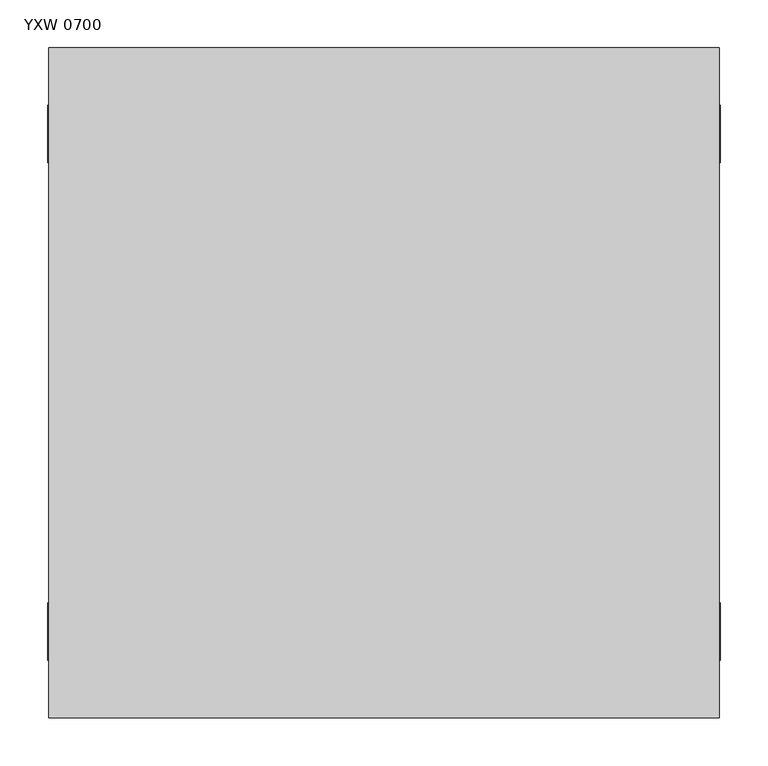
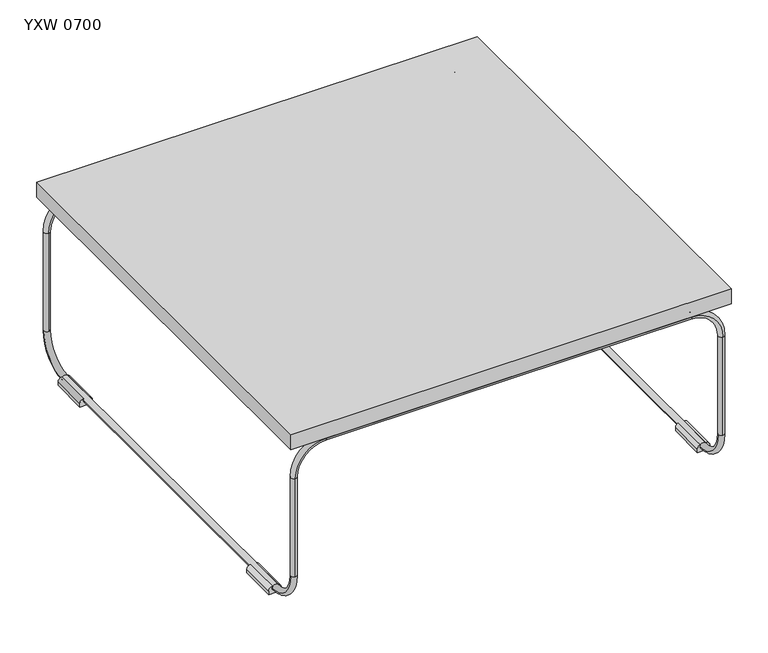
"""IFC4 building model written with IfcOpenShell, lengths in millimetres: furniture geometry, Mobiliário_Mobiliário de Escritório_LinhaYoung_Mesa Baixa YXW 0700_Marelli : YXW 0700."""

from ifc_helpers import new_model, si_unit, point, frame, frame_2d, origin, place, context, project, spatial, polyline, circle_curve, ellipse_curve, trimmed, segment, composite_curve, outline, extrude, source, transform, mapped, element, save
from ifc_brep_helpers import cylinder_surface, revolved_surface, advanced_brep


def yxw_0700_d7e07470(model_context):
    return source(origin(), model_context, "Body", "SolidModel", [
        extrude(outline(polyline([(700.0, 0.0), (0.0, 0.0), (0.0, 700.0), (700.0, 700.0), (700.0, 0.0)])), frame((0.0, 0.0, 280.0), z_axis=(0.0, 0.0, 1.0), x_axis=(1.0, 0.0, 0.0)), (0.0, 0.0, 1.0), 25.0),
        advanced_brep(
        [(15.0, 640.0, 9.0), (15.0, 690.0, 59.0), (10.0, 685.0, 59.0), (5.0, 690.0, 59.0), (5.0, 640.0, 9.0), (10.0, 695.0, 59.0), (5.0, 60.0, 9.0), (15.0, 60.0, 9.0), (695.0, 60.0, 9.0), (695.0, 640.0, 9.0), (685.0, 640.0, 9.0), (685.0, 60.0, 9.0), (695.0, 690.0, 59.0), (690.0, 685.0, 59.0), (685.0, 690.0, 59.0), (690.0, 695.0, 59.0), (5.0, 10.0, 59.0), (10.0, 15.0, 59.0), (15.0, 10.0, 59.0), (10.0, 5.0, 59.0), (685.0, 10.0, 59.0), (690.0, 15.0, 59.0), (695.0, 10.0, 59.0), (690.0, 5.0, 59.0), (640.0, 5.0, 275.0), (60.0, 5.0, 275.0), (60.0, 15.0, 275.0), (70.0, 15.0, 275.0), (75.0, 10.0, 270.0), (80.0, 15.0, 275.0), (620.0, 15.0, 275.0), (625.0, 10.0, 270.0), (630.0, 15.0, 275.0), (640.0, 15.0, 275.0), (625.0, 10.0, 280.0), (75.0, 10.0, 280.0), (640.0, 695.0, 275.0), (60.0, 695.0, 275.0), (60.0, 685.0, 275.0), (70.0, 685.0, 275.0), (75.0, 690.0, 280.0), (80.0, 685.0, 275.0), (620.0, 685.0, 275.0), (625.0, 690.0, 280.0), (630.0, 685.0, 275.0), (640.0, 685.0, 275.0), (625.0, 690.0, 270.0), (75.0, 690.0, 270.0), (10.0, 5.0, 225.0), (10.0, 15.0, 225.0), (690.0, 15.0, 225.0), (690.0, 5.0, 225.0), (10.0, 685.0, 225.0), (10.0, 695.0, 225.0), (690.0, 695.0, 225.0), (690.0, 685.0, 225.0)],
        [
            (0, 1, circle_curve(frame((15.0, 640.0, 59.0), z_axis=(1.0, 0.0, 0.0), x_axis=(0.0, 1.0, 0.0)), 50.0)),
            (1, 2, circle_curve(frame((10.0, 690.0, 59.0), z_axis=(0.0, 0.0, -1.0), x_axis=(1.0, 0.0, 0.0)), 5.0)),
            (2, 3, circle_curve(frame((10.0, 690.0, 59.0), z_axis=(0.0, 0.0, -1.0), x_axis=(1.0, 0.0, 0.0)), 5.0)),
            (3, 4, circle_curve(frame((5.0, 640.0, 59.0), z_axis=(-1.0, 0.0, 0.0), x_axis=(0.0, 1.0, 0.0)), 50.0)),
            (4, 0, circle_curve(frame((10.0, 640.0, 9.0), z_axis=(0.0, 1.0, 0.0), x_axis=(1.0, 0.0, 0.0)), 5.0)),
            (0, 4, circle_curve(frame((10.0, 640.0, 9.0), z_axis=(0.0, 1.0, 0.0), x_axis=(1.0, 0.0, 0.0)), 5.0)),
            (3, 5, circle_curve(frame((10.0, 690.0, 59.0), z_axis=(0.0, 0.0, -1.0), x_axis=(1.0, 0.0, 0.0)), 5.0)),
            (5, 1, circle_curve(frame((10.0, 690.0, 59.0), z_axis=(0.0, 0.0, -1.0), x_axis=(1.0, 0.0, 0.0)), 5.0)),
            (6, 4),
            (0, 7),
            (7, 6, circle_curve(frame((10.0, 60.0, 9.0), z_axis=(0.0, 1.0, 0.0), x_axis=(1.0, 0.0, 0.0)), 5.0)),
            (6, 7, circle_curve(frame((10.0, 60.0, 9.0), z_axis=(0.0, 1.0, 0.0), x_axis=(1.0, 0.0, 0.0)), 5.0)),
            (8, 9),
            (9, 10, circle_curve(frame((690.0, 640.0, 9.0), z_axis=(0.0, -1.0, 0.0), x_axis=(-1.0, 0.0, 0.0)), 5.0)),
            (10, 11),
            (11, 8, circle_curve(frame((690.0, 60.0, 9.0), z_axis=(0.0, 1.0, 0.0), x_axis=(-1.0, 0.0, 0.0)), 5.0)),
            (8, 11, circle_curve(frame((690.0, 60.0, 9.0), z_axis=(0.0, 1.0, 0.0), x_axis=(-1.0, 0.0, 0.0)), 5.0)),
            (10, 9, circle_curve(frame((690.0, 640.0, 9.0), z_axis=(0.0, -1.0, 0.0), x_axis=(-1.0, 0.0, 0.0)), 5.0)),
            (9, 12, circle_curve(frame((695.0, 640.0, 59.0), z_axis=(1.0, 0.0, 0.0), x_axis=(0.0, 1.0, 0.0)), 50.0)),
            (12, 13, circle_curve(frame((690.0, 690.0, 59.0), z_axis=(0.0, 0.0, -1.0), x_axis=(-1.0, 0.0, 0.0)), 5.0)),
            (13, 14, circle_curve(frame((690.0, 690.0, 59.0), z_axis=(0.0, 0.0, -1.0), x_axis=(-1.0, 0.0, 0.0)), 5.0)),
            (14, 10, circle_curve(frame((685.0, 640.0, 59.0), z_axis=(-1.0, 0.0, 0.0), x_axis=(0.0, 1.0, 0.0)), 50.0)),
            (14, 15, circle_curve(frame((690.0, 690.0, 59.0), z_axis=(0.0, 0.0, -1.0), x_axis=(-1.0, 0.0, 0.0)), 5.0)),
            (15, 12, circle_curve(frame((690.0, 690.0, 59.0), z_axis=(0.0, 0.0, -1.0), x_axis=(-1.0, 0.0, 0.0)), 5.0)),
            (6, 16, circle_curve(frame((5.0, 60.0, 59.0), z_axis=(-1.0, 0.0, 0.0), x_axis=(0.0, -1.0, 0.0)), 50.0)),
            (16, 17, circle_curve(frame((10.0, 10.0, 59.0), z_axis=(0.0, 0.0, -1.0), x_axis=(1.0, 0.0, 0.0)), 5.0)),
            (17, 18, circle_curve(frame((10.0, 10.0, 59.0), z_axis=(0.0, 0.0, -1.0), x_axis=(1.0, 0.0, 0.0)), 5.0)),
            (18, 7, circle_curve(frame((15.0, 60.0, 59.0), z_axis=(1.0, 0.0, 0.0), x_axis=(0.0, -1.0, 0.0)), 50.0)),
            (18, 19, circle_curve(frame((10.0, 10.0, 59.0), z_axis=(0.0, 0.0, -1.0), x_axis=(1.0, 0.0, 0.0)), 5.0)),
            (19, 16, circle_curve(frame((10.0, 10.0, 59.0), z_axis=(0.0, 0.0, -1.0), x_axis=(1.0, 0.0, 0.0)), 5.0)),
            (11, 20, circle_curve(frame((685.0, 60.0, 59.0), z_axis=(-1.0, 0.0, 0.0), x_axis=(0.0, -1.0, 0.0)), 50.0)),
            (20, 21, circle_curve(frame((690.0, 10.0, 59.0), z_axis=(0.0, 0.0, -1.0), x_axis=(-1.0, 0.0, 0.0)), 5.0)),
            (21, 22, circle_curve(frame((690.0, 10.0, 59.0), z_axis=(0.0, 0.0, -1.0), x_axis=(-1.0, 0.0, 0.0)), 5.0)),
            (22, 8, circle_curve(frame((695.0, 60.0, 59.0), z_axis=(1.0, 0.0, 0.0), x_axis=(0.0, -1.0, 0.0)), 50.0)),
            (22, 23, circle_curve(frame((690.0, 10.0, 59.0), z_axis=(0.0, 0.0, -1.0), x_axis=(-1.0, 0.0, 0.0)), 5.0)),
            (23, 20, circle_curve(frame((690.0, 10.0, 59.0), z_axis=(0.0, 0.0, -1.0), x_axis=(-1.0, 0.0, 0.0)), 5.0)),
            (24, 25),
            (25, 26, circle_curve(frame((60.0, 10.0, 275.0), z_axis=(1.0, 0.0, 0.0), x_axis=(0.0, 1.0, 0.0)), 5.0)),
            (26, 27),
            (27, 28, ellipse_curve(frame((75.0, 10.0, 275.0), z_axis=(-0.7071067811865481, -0.7071067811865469, 0.0), x_axis=(0.7071067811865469, -0.7071067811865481, 0.0)), 7.0710678, 5.0)),
            (28, 29, ellipse_curve(frame((75.0, 10.0, 275.0), z_axis=(0.7071067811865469, -0.7071067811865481, 0.0), x_axis=(0.7071067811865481, 0.7071067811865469, 0.0)), 7.0710678, 5.0)),
            (29, 30),
            (30, 31, ellipse_curve(frame((625.0, 10.0, 275.0), z_axis=(-0.7071067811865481, -0.7071067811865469, 0.0), x_axis=(0.7071067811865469, -0.7071067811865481, 0.0)), 7.0710678, 5.0)),
            (31, 32, ellipse_curve(frame((625.0, 10.0, 275.0), z_axis=(0.7071067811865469, -0.7071067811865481, 0.0), x_axis=(0.7071067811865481, 0.7071067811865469, 0.0)), 7.0710678, 5.0)),
            (32, 33),
            (33, 24, circle_curve(frame((640.0, 10.0, 275.0), z_axis=(-1.0, 0.0, 0.0), x_axis=(0.0, 1.0, 0.0)), 5.0)),
            (24, 33, circle_curve(frame((640.0, 10.0, 275.0), z_axis=(-1.0, 0.0, 0.0), x_axis=(0.0, 1.0, 0.0)), 5.0)),
            (32, 34, ellipse_curve(frame((625.0, 10.0, 275.0), z_axis=(0.7071067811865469, -0.7071067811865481, 0.0), x_axis=(0.7071067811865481, 0.7071067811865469, 0.0)), 7.0710678, 5.0)),
            (34, 30, ellipse_curve(frame((625.0, 10.0, 275.0), z_axis=(-0.7071067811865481, -0.7071067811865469, 0.0), x_axis=(0.7071067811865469, -0.7071067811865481, 0.0)), 7.0710678, 5.0)),
            (29, 35, ellipse_curve(frame((75.0, 10.0, 275.0), z_axis=(0.7071067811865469, -0.7071067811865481, 0.0), x_axis=(0.7071067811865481, 0.7071067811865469, 0.0)), 7.0710678, 5.0)),
            (35, 27, ellipse_curve(frame((75.0, 10.0, 275.0), z_axis=(-0.7071067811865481, -0.7071067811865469, 0.0), x_axis=(0.7071067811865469, -0.7071067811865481, 0.0)), 7.0710678, 5.0)),
            (26, 25, circle_curve(frame((60.0, 10.0, 275.0), z_axis=(1.0, 0.0, 0.0), x_axis=(0.0, 1.0, 0.0)), 5.0)),
            (36, 37),
            (37, 38, circle_curve(frame((60.0, 690.0, 275.0), z_axis=(1.0, 0.0, 0.0), x_axis=(0.0, -1.0, 0.0)), 5.0)),
            (38, 39),
            (39, 40, ellipse_curve(frame((75.0, 690.0, 275.0), z_axis=(-0.7071067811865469, 0.7071067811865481, 0.0), x_axis=(0.7071067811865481, 0.7071067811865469, 0.0)), 7.0710678, 5.0)),
            (40, 41, ellipse_curve(frame((75.0, 690.0, 275.0), z_axis=(0.7071067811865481, 0.7071067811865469, 0.0), x_axis=(0.7071067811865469, -0.7071067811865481, 0.0)), 7.0710678, 5.0)),
            (41, 42),
            (42, 43, ellipse_curve(frame((625.0, 690.0, 275.0), z_axis=(-0.7071067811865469, 0.7071067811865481, 0.0), x_axis=(0.7071067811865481, 0.7071067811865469, 0.0)), 7.0710678, 5.0)),
            (43, 44, ellipse_curve(frame((625.0, 690.0, 275.0), z_axis=(0.7071067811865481, 0.7071067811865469, 0.0), x_axis=(0.7071067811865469, -0.7071067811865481, 0.0)), 7.0710678, 5.0)),
            (44, 45),
            (45, 36, circle_curve(frame((640.0, 690.0, 275.0), z_axis=(-1.0, 0.0, 0.0), x_axis=(0.0, -1.0, 0.0)), 5.0)),
            (36, 45, circle_curve(frame((640.0, 690.0, 275.0), z_axis=(-1.0, 0.0, 0.0), x_axis=(0.0, -1.0, 0.0)), 5.0)),
            (44, 46, ellipse_curve(frame((625.0, 690.0, 275.0), z_axis=(0.7071067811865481, 0.7071067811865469, 0.0), x_axis=(0.7071067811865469, -0.7071067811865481, 0.0)), 7.0710678, 5.0)),
            (46, 42, ellipse_curve(frame((625.0, 690.0, 275.0), z_axis=(-0.7071067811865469, 0.7071067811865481, 0.0), x_axis=(0.7071067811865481, 0.7071067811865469, 0.0)), 7.0710678, 5.0)),
            (41, 47, ellipse_curve(frame((75.0, 690.0, 275.0), z_axis=(0.7071067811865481, 0.7071067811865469, 0.0), x_axis=(0.7071067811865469, -0.7071067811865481, 0.0)), 7.0710678, 5.0)),
            (47, 39, ellipse_curve(frame((75.0, 690.0, 275.0), z_axis=(-0.7071067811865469, 0.7071067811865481, 0.0), x_axis=(0.7071067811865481, 0.7071067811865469, 0.0)), 7.0710678, 5.0)),
            (38, 37, circle_curve(frame((60.0, 690.0, 275.0), z_axis=(1.0, 0.0, 0.0), x_axis=(0.0, -1.0, 0.0)), 5.0)),
            (25, 48, circle_curve(frame((60.0, 5.0, 225.0), z_axis=(0.0, -1.0, 0.0), x_axis=(-1.0, 0.0, 0.0)), 50.0)),
            (48, 49, circle_curve(frame((10.0, 10.0, 225.0), z_axis=(0.0, 0.0, 1.0), x_axis=(0.0, -1.0, 0.0)), 5.0)),
            (49, 26, circle_curve(frame((60.0, 15.0, 225.0), z_axis=(0.0, 1.0, 0.0), x_axis=(-1.0, 0.0, 0.0)), 50.0)),
            (49, 48, circle_curve(frame((10.0, 10.0, 225.0), z_axis=(0.0, 0.0, 1.0), x_axis=(0.0, -1.0, 0.0)), 5.0)),
            (33, 50, circle_curve(frame((640.0, 15.0, 225.0), z_axis=(0.0, 1.0, 0.0), x_axis=(1.0, 0.0, 0.0)), 50.0)),
            (50, 51, circle_curve(frame((690.0, 10.0, 225.0), z_axis=(0.0, 0.0, 1.0), x_axis=(0.0, -1.0, 0.0)), 5.0)),
            (51, 24, circle_curve(frame((640.0, 5.0, 225.0), z_axis=(0.0, -1.0, 0.0), x_axis=(1.0, 0.0, 0.0)), 50.0)),
            (51, 50, circle_curve(frame((690.0, 10.0, 225.0), z_axis=(0.0, 0.0, 1.0), x_axis=(0.0, -1.0, 0.0)), 5.0)),
            (38, 52, circle_curve(frame((60.0, 685.0, 225.0), z_axis=(0.0, -1.0, 0.0), x_axis=(-1.0, 0.0, 0.0)), 50.0)),
            (52, 53, circle_curve(frame((10.0, 690.0, 225.0), z_axis=(0.0, 0.0, 1.0), x_axis=(0.0, 1.0, 0.0)), 5.0)),
            (53, 37, circle_curve(frame((60.0, 695.0, 225.0), z_axis=(0.0, 1.0, 0.0), x_axis=(-1.0, 0.0, 0.0)), 50.0)),
            (53, 52, circle_curve(frame((10.0, 690.0, 225.0), z_axis=(0.0, 0.0, 1.0), x_axis=(0.0, 1.0, 0.0)), 5.0)),
            (36, 54, circle_curve(frame((640.0, 695.0, 225.0), z_axis=(0.0, 1.0, 0.0), x_axis=(1.0, 0.0, 0.0)), 50.0)),
            (54, 55, circle_curve(frame((690.0, 690.0, 225.0), z_axis=(0.0, 0.0, 1.0), x_axis=(0.0, 1.0, 0.0)), 5.0)),
            (55, 45, circle_curve(frame((640.0, 685.0, 225.0), z_axis=(0.0, -1.0, 0.0), x_axis=(1.0, 0.0, 0.0)), 50.0)),
            (55, 54, circle_curve(frame((690.0, 690.0, 225.0), z_axis=(0.0, 0.0, 1.0), x_axis=(0.0, 1.0, 0.0)), 5.0)),
            (41, 29),
            (27, 39),
            (32, 44),
            (42, 30),
            (53, 5),
            (2, 52),
            (54, 15),
            (13, 55),
            (48, 19),
            (17, 49),
            (51, 23),
            (21, 50),
        ],
        [
            revolved_surface(trimmed(ellipse_curve(frame((10.0, 690.0, 59.0), z_axis=(0.0, 0.0, 1.0), x_axis=(1.0, 0.0, 0.0)), 5.0, 5.0), [point((5.0, 690.0, 59.0))], [point((15.0, 690.0, 59.0))], True, "CARTESIAN"), (20.0, 640.0, 59.0), (-1.0, 0.0, 0.0)),
            revolved_surface(trimmed(ellipse_curve(frame((10.0, 690.0, 59.0), z_axis=(0.0, 0.0, 1.0), x_axis=(1.0, 0.0, 0.0)), 5.0, 5.0), [point((15.0, 690.0, 59.0))], [point((5.0, 690.0, 59.0))], True, "CARTESIAN"), (20.0, 640.0, 59.0), (-1.0, 0.0, 0.0)),
            cylinder_surface(frame((10.0, 640.0, 9.0), z_axis=(0.0, -1.0, 0.0), x_axis=(1.0, 0.0, 0.0)), 5.0),
            cylinder_surface(frame((690.0, 0.0, 9.0), z_axis=(0.0, -1.0, 0.0), x_axis=(-1.0, 0.0, 0.0)), 5.0),
            revolved_surface(trimmed(ellipse_curve(frame((690.0, 690.0, 59.0), z_axis=(0.0, 0.0, 1.0), x_axis=(-1.0, 0.0, 0.0)), 5.0, 5.0), [point((685.0, 690.0, 59.0))], [point((695.0, 690.0, 59.0))], True, "CARTESIAN"), (680.0, 640.0, 59.0), (-1.0, 0.0, 0.0)),
            revolved_surface(trimmed(ellipse_curve(frame((690.0, 690.0, 59.0), z_axis=(0.0, 0.0, 1.0), x_axis=(-1.0, 0.0, 0.0)), 5.0, 5.0), [point((695.0, 690.0, 59.0))], [point((685.0, 690.0, 59.0))], True, "CARTESIAN"), (680.0, 640.0, 59.0), (-1.0, 0.0, 0.0)),
            revolved_surface(trimmed(ellipse_curve(frame((10.0, 10.0, 59.0), z_axis=(0.0, 0.0, 1.0), x_axis=(1.0, 0.0, 0.0)), 5.0, 5.0), [point((15.0, 10.0, 59.0))], [point((5.0, 10.0, 59.0))], True, "CARTESIAN"), (20.0, 60.0, 59.0), (1.0, 0.0, 0.0)),
            revolved_surface(trimmed(ellipse_curve(frame((10.0, 10.0, 59.0), z_axis=(0.0, 0.0, 1.0), x_axis=(1.0, 0.0, 0.0)), 5.0, 5.0), [point((5.0, 10.0, 59.0))], [point((15.0, 10.0, 59.0))], True, "CARTESIAN"), (20.0, 60.0, 59.0), (1.0, 0.0, 0.0)),
            revolved_surface(trimmed(ellipse_curve(frame((690.0, 10.0, 59.0), z_axis=(0.0, 0.0, 1.0), x_axis=(-1.0, 0.0, 0.0)), 5.0, 5.0), [point((695.0, 10.0, 59.0))], [point((685.0, 10.0, 59.0))], True, "CARTESIAN"), (680.0, 60.0, 59.0), (1.0, 0.0, 0.0)),
            revolved_surface(trimmed(ellipse_curve(frame((690.0, 10.0, 59.0), z_axis=(0.0, 0.0, 1.0), x_axis=(-1.0, 0.0, 0.0)), 5.0, 5.0), [point((685.0, 10.0, 59.0))], [point((695.0, 10.0, 59.0))], True, "CARTESIAN"), (680.0, 60.0, 59.0), (1.0, 0.0, 0.0)),
            cylinder_surface(frame((60.0, 10.0, 275.0), z_axis=(1.0, 0.0, 0.0), x_axis=(0.0, 1.0, 0.0)), 5.0),
            cylinder_surface(frame((740.0, 690.0, 275.0), z_axis=(1.0, 0.0, 0.0), x_axis=(0.0, -1.0, 0.0)), 5.0),
            revolved_surface(trimmed(ellipse_curve(frame((10.0, 10.0, 225.0), z_axis=(0.0, 0.0, -1.0), x_axis=(0.0, -1.0, 0.0)), 5.0, 5.0), [point((10.0, 15.0, 225.0))], [point((10.0, 5.0, 225.0))], True, "CARTESIAN"), (60.0, 0.0, 225.0), (0.0, 1.0, 0.0)),
            revolved_surface(trimmed(ellipse_curve(frame((10.0, 10.0, 225.0), z_axis=(0.0, 0.0, -1.0), x_axis=(0.0, -1.0, 0.0)), 5.0, 5.0), [point((10.0, 5.0, 225.0))], [point((10.0, 15.0, 225.0))], True, "CARTESIAN"), (60.0, 0.0, 225.0), (0.0, 1.0, 0.0)),
            revolved_surface(trimmed(ellipse_curve(frame((690.0, 10.0, 225.0), z_axis=(0.0, 0.0, -1.0), x_axis=(0.0, -1.0, 0.0)), 5.0, 5.0), [point((690.0, 5.0, 225.0))], [point((690.0, 15.0, 225.0))], True, "CARTESIAN"), (640.0, 0.0, 225.0), (0.0, -1.0, 0.0)),
            revolved_surface(trimmed(ellipse_curve(frame((690.0, 10.0, 225.0), z_axis=(0.0, 0.0, -1.0), x_axis=(0.0, -1.0, 0.0)), 5.0, 5.0), [point((690.0, 15.0, 225.0))], [point((690.0, 5.0, 225.0))], True, "CARTESIAN"), (640.0, 0.0, 225.0), (0.0, -1.0, 0.0)),
            revolved_surface(trimmed(ellipse_curve(frame((10.0, 690.0, 225.0), z_axis=(0.0, 0.0, -1.0), x_axis=(0.0, 1.0, 0.0)), 5.0, 5.0), [point((10.0, 695.0, 225.0))], [point((10.0, 685.0, 225.0))], True, "CARTESIAN"), (60.0, 700.0, 225.0), (0.0, 1.0, 0.0)),
            revolved_surface(trimmed(ellipse_curve(frame((10.0, 690.0, 225.0), z_axis=(0.0, 0.0, -1.0), x_axis=(0.0, 1.0, 0.0)), 5.0, 5.0), [point((10.0, 685.0, 225.0))], [point((10.0, 695.0, 225.0))], True, "CARTESIAN"), (60.0, 700.0, 225.0), (0.0, 1.0, 0.0)),
            revolved_surface(trimmed(ellipse_curve(frame((690.0, 690.0, 225.0), z_axis=(0.0, 0.0, -1.0), x_axis=(0.0, 1.0, 0.0)), 5.0, 5.0), [point((690.0, 685.0, 225.0))], [point((690.0, 695.0, 225.0))], True, "CARTESIAN"), (640.0, 700.0, 225.0), (0.0, -1.0, 0.0)),
            revolved_surface(trimmed(ellipse_curve(frame((690.0, 690.0, 225.0), z_axis=(0.0, 0.0, -1.0), x_axis=(0.0, 1.0, 0.0)), 5.0, 5.0), [point((690.0, 695.0, 225.0))], [point((690.0, 685.0, 225.0))], True, "CARTESIAN"), (640.0, 700.0, 225.0), (0.0, -1.0, 0.0)),
            cylinder_surface(frame((75.0, 690.0, 275.0), z_axis=(0.0, -1.0, 0.0), x_axis=(1.0, 0.0, 0.0)), 5.0),
            cylinder_surface(frame((625.0, 0.0, 275.0), z_axis=(0.0, -1.0, 0.0), x_axis=(-1.0, 0.0, 0.0)), 5.0),
            cylinder_surface(frame((10.0, 690.0, 59.0), z_axis=(0.0, 0.0, 1.0), x_axis=(0.0, 1.0, 0.0)), 5.0),
            cylinder_surface(frame((690.0, 690.0, 0.0), z_axis=(0.0, 0.0, 1.0), x_axis=(0.0, 1.0, 0.0)), 5.0),
            cylinder_surface(frame((10.0, 10.0, 0.0), z_axis=(0.0, 0.0, 1.0), x_axis=(0.0, -1.0, 0.0)), 5.0),
            cylinder_surface(frame((690.0, 10.0, 0.0), z_axis=(0.0, 0.0, 1.0), x_axis=(0.0, -1.0, 0.0)), 5.0),
        ],
        [
            (0, [[1, 2, 3, 4, 5]]),
            (1, [[-1, 6, -4, 7, 8]]),
            (2, [[9, -6, 10, 11]]),
            (2, [[-9, 12, -10, -5]]),
            (3, [[13, 14, 15, 16]]),
            (3, [[-13, 17, -15, 18]]),
            (4, [[19, 20, 21, 22, -14]]),
            (5, [[-19, -18, -22, 23, 24]]),
            (6, [[25, 26, 27, 28, -12]]),
            (7, [[-25, -11, -28, 29, 30]]),
            (8, [[31, 32, 33, 34, -16]]),
            (9, [[-31, -17, -34, 35, 36]]),
            (10, [[37, 38, 39, 40, 41, 42, 43, 44, 45, 46]]),
            (10, [[-37, 47, -45, 48, 49, -42, 50, 51, -39, 52]]),
            (11, [[53, 54, 55, 56, 57, 58, 59, 60, 61, 62]]),
            (11, [[-53, 63, -61, 64, 65, -58, 66, 67, -55, 68]]),
            (12, [[69, 70, 71, -38]]),
            (13, [[-69, -52, -71, 72]]),
            (14, [[73, 74, 75, -46]]),
            (15, [[-73, -47, -75, 76]]),
            (16, [[77, 78, 79, -68]]),
            (17, [[-77, -54, -79, 80]]),
            (18, [[81, 82, 83, -63]]),
            (19, [[-81, -62, -83, 84]]),
            (20, [[85, -41, -40, 86, -67, -66]]),
            (20, [[-85, -57, -56, -86, -51, -50]]),
            (21, [[87, -60, -59, 88, -49, -48]]),
            (21, [[-87, -44, -43, -88, -65, -64]]),
            (22, [[89, -7, -3, 90, -80]]),
            (22, [[-89, -78, -90, -2, -8]]),
            (23, [[91, -23, -21, 92, -82]]),
            (23, [[-91, -84, -92, -20, -24]]),
            (24, [[93, -29, -27, 94, -70]]),
            (24, [[-93, -72, -94, -26, -30]]),
            (25, [[95, -35, -33, 96, -76]]),
            (25, [[-95, -74, -96, -32, -36]]),
        ],
    ),
        extrude(outline(composite_curve([segment(polyline([(0.0, 19.0127166), (6.0, 19.0127166)]), True, "CONTINUOUS"), segment(trimmed(circle_curve(frame_2d((6.0, 13.0127166)), 6.0), [point((6.0, 19.0127166))], [point((11.9041735, 14.0807687))], False, "CARTESIAN"), True, "CONTINUOUS"), segment(trimmed(circle_curve(frame_2d((8.9971213, 10.0127166)), 5.0), [point((11.9041735, 14.0807687))], [point((11.9248285, 5.9595042))], True, "CARTESIAN"), True, "CONTINUOUS"), segment(trimmed(circle_curve(frame_2d((6.0, 5.0127166)), 6.0), [point((11.9248285, 5.9595042))], [point((6.0, -0.9872834))], False, "CARTESIAN"), True, "CONTINUOUS"), segment(polyline([(6.0, -0.9872834), (0.0, -0.9872834), (0.0, 19.0127166)]), True, "CONTINUOUS")], self_intersect=False)), frame((0.0, 60.0, 0.0), z_axis=(0.0, 1.0, 0.0), x_axis=(0.0, 0.0, 1.0)), (0.0, 0.0, 1.0), 60.0),
        extrude(outline(composite_curve([segment(polyline([(0.0, 680.9872834), (0.0, 700.9872834), (6.0, 700.9872834)]), True, "CONTINUOUS"), segment(trimmed(circle_curve(frame_2d((6.0, 694.9872834)), 6.0), [point((6.0, 700.9872834))], [point((11.9248285, 694.0404958))], False, "CARTESIAN"), True, "CONTINUOUS"), segment(trimmed(circle_curve(frame_2d((8.9971213, 689.9872834)), 5.0), [point((11.9248285, 694.0404958))], [point((11.9041735, 685.9192313))], True, "CARTESIAN"), True, "CONTINUOUS"), segment(trimmed(circle_curve(frame_2d((6.0, 686.9872834)), 6.0), [point((11.9041735, 685.9192313))], [point((6.0, 680.9872834))], False, "CARTESIAN"), True, "CONTINUOUS"), segment(polyline([(6.0, 680.9872834), (0.0, 680.9872834)]), True, "CONTINUOUS")], self_intersect=False)), frame((0.0, 60.0, 0.0), z_axis=(0.0, 1.0, 0.0), x_axis=(0.0, 0.0, 1.0)), (0.0, 0.0, 1.0), 60.0),
        extrude(outline(composite_curve([segment(polyline([(0.0, 19.0127166), (6.0, 19.0127166)]), True, "CONTINUOUS"), segment(trimmed(circle_curve(frame_2d((6.0, 13.0127166)), 6.0), [point((6.0, 19.0127166))], [point((11.9041735, 14.0807687))], False, "CARTESIAN"), True, "CONTINUOUS"), segment(trimmed(circle_curve(frame_2d((8.9971213, 10.0127166)), 5.0), [point((11.9041735, 14.0807687))], [point((11.9248285, 5.9595042))], True, "CARTESIAN"), True, "CONTINUOUS"), segment(trimmed(circle_curve(frame_2d((6.0, 5.0127166)), 6.0), [point((11.9248285, 5.9595042))], [point((6.0, -0.9872834))], False, "CARTESIAN"), True, "CONTINUOUS"), segment(polyline([(6.0, -0.9872834), (0.0, -0.9872834), (0.0, 19.0127166)]), True, "CONTINUOUS")], self_intersect=False)), frame((0.0, 580.0, 0.0), z_axis=(0.0, 1.0, 0.0), x_axis=(0.0, 0.0, 1.0)), (0.0, 0.0, 1.0), 60.0),
        extrude(outline(composite_curve([segment(polyline([(0.0, 680.9872834), (0.0, 700.9872834), (6.0, 700.9872834)]), True, "CONTINUOUS"), segment(trimmed(circle_curve(frame_2d((6.0, 694.9872834)), 6.0), [point((6.0, 700.9872834))], [point((11.9248285, 694.0404958))], False, "CARTESIAN"), True, "CONTINUOUS"), segment(trimmed(circle_curve(frame_2d((8.9971213, 689.9872834)), 5.0), [point((11.9248285, 694.0404958))], [point((11.9041735, 685.9192313))], True, "CARTESIAN"), True, "CONTINUOUS"), segment(trimmed(circle_curve(frame_2d((6.0, 686.9872834)), 6.0), [point((11.9041735, 685.9192313))], [point((6.0, 680.9872834))], False, "CARTESIAN"), True, "CONTINUOUS"), segment(polyline([(6.0, 680.9872834), (0.0, 680.9872834)]), True, "CONTINUOUS")], self_intersect=False)), frame((0.0, 580.0, 0.0), z_axis=(0.0, 1.0, 0.0), x_axis=(0.0, 0.0, 1.0)), (0.0, 0.0, 1.0), 60.0),
    ])


if __name__ == "__main__":
    model = new_model("IFC4")
    model_context = context("Model", 3, world=origin())
    ifc_project = project(units=[si_unit("LENGTHUNIT", "METRE", prefix="MILLI")], contexts=[model_context])
    site = spatial("IfcSite", under=ifc_project)
    building = spatial("IfcBuilding", under=site)
    placement = place(None, origin())
    yxw_0700_shape = yxw_0700_d7e07470(model_context)
    element("IfcFurniture", 1, ObjectType="Mobiliário_Mobiliário de Escritório_LinhaYoung_Mesa Baixa YXW 0700_Marelli : YXW 0700", at=placement, inside=building, context=model_context, shape_type="MappedRepresentation", body=[
        mapped(yxw_0700_shape, transform((0.0, 0.0, 0.0), x_axis=(1.0, 0.0, 0.0), y_axis=(0.0, 1.0, 0.0), z_axis=(0.0, 0.0, 1.0))),
    ])
    save(model, "model.ifc")
